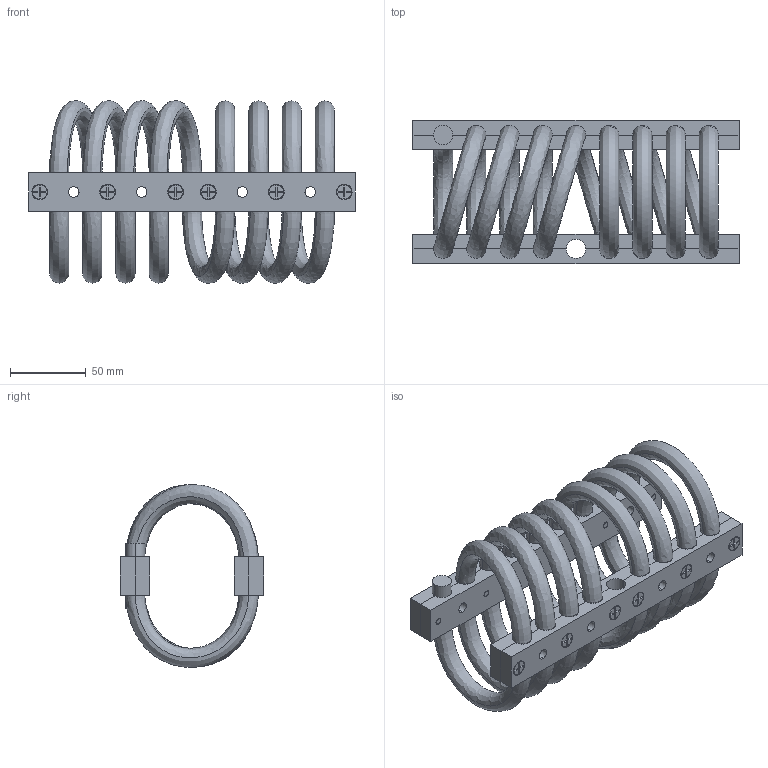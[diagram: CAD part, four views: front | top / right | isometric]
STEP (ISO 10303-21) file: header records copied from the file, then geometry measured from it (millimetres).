
FILE_DESCRIPTION (( 'STEP AP214' ), '1' );
FILE_NAME ('WR16-600-8DM.STEP', '2018-12-07T10:08:02', ( 'user' ), ( 'Microsoft' ), 'SwSTEP 2.0', 'SolidWorks 2016', '' );
FILE_SCHEMA (( 'AUTOMOTIVE_DESIGN' ));
Length unit declared in the file: millimetre
Products named in the file (1): WR16-600-8DM
Bounding box: 215.9 x 95 x 121.02 mm (x, y, z)
Volume: 482009.1 mm3; surface area: 184609.8 mm2
Topology: 34 solids, 34 shells, 664 faces, 1618 edges, 1050 vertices
Faces by surface type: plane 300, cylinder 258, cone 72, bspline 34
Entity records: 34749 total; most frequent: CARTESIAN_POINT 17889, DIRECTION 3244, ORIENTED_EDGE 3236, EDGE_CURVE 1618, AXIS2_PLACEMENT_3D 1159, VERTEX_POINT 1050, LINE 926, VECTOR 926
